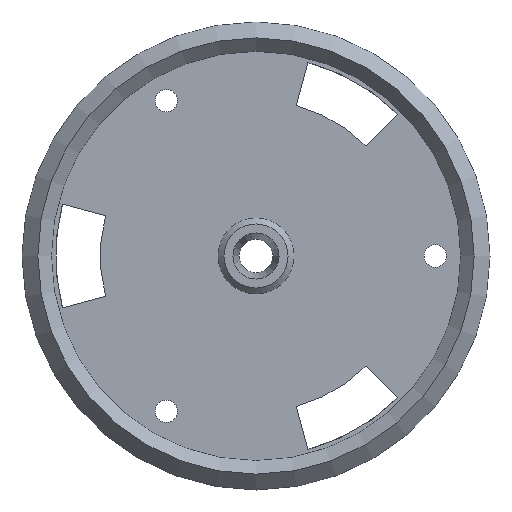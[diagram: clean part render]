
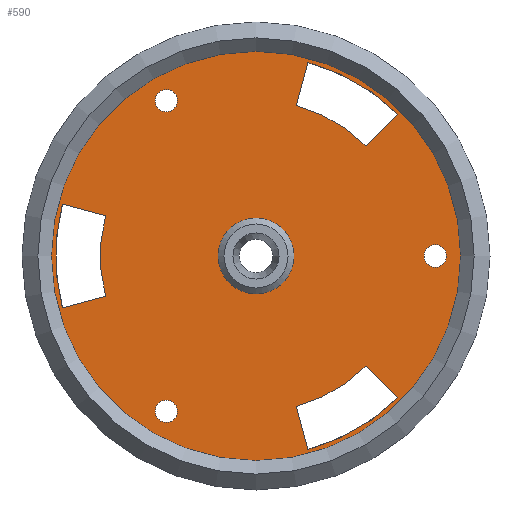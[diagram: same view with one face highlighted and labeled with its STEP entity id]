
A CAD part, front view. The second image highlights one B-rep face of the part: STEP entity #590.
In plain terms, the highlighted planar face has unit normal (0, -1, 0).
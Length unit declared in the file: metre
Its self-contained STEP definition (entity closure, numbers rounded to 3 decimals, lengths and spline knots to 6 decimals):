
#58=LINE('',#942,#88);
#59=LINE('',#946,#89);
#60=LINE('',#950,#90);
#61=LINE('',#954,#91);
#62=LINE('',#958,#92);
#63=LINE('',#962,#93);
#88=VECTOR('',#752,1.);
#89=VECTOR('',#755,1.);
#90=VECTOR('',#758,1.);
#91=VECTOR('',#761,1.);
#92=VECTOR('',#764,1.);
#93=VECTOR('',#767,1.);
#129=ORIENTED_EDGE('',*,*,#293,.F.);
#130=ORIENTED_EDGE('',*,*,#294,.F.);
#131=ORIENTED_EDGE('',*,*,#295,.T.);
#132=ORIENTED_EDGE('',*,*,#296,.T.);
#133=ORIENTED_EDGE('',*,*,#297,.F.);
#134=ORIENTED_EDGE('',*,*,#298,.F.);
#135=ORIENTED_EDGE('',*,*,#299,.T.);
#136=ORIENTED_EDGE('',*,*,#300,.T.);
#137=ORIENTED_EDGE('',*,*,#301,.F.);
#138=ORIENTED_EDGE('',*,*,#302,.F.);
#139=ORIENTED_EDGE('',*,*,#303,.T.);
#140=ORIENTED_EDGE('',*,*,#304,.T.);
#141=ORIENTED_EDGE('',*,*,#305,.F.);
#142=ORIENTED_EDGE('',*,*,#306,.F.);
#143=ORIENTED_EDGE('',*,*,#307,.F.);
#144=ORIENTED_EDGE('',*,*,#308,.F.);
#145=ORIENTED_EDGE('',*,*,#309,.F.);
#293=EDGE_CURVE('',#375,#376,#427,.T.);
#294=EDGE_CURVE('',#377,#375,#58,.T.);
#295=EDGE_CURVE('',#377,#378,#428,.T.);
#296=EDGE_CURVE('',#378,#376,#59,.T.);
#297=EDGE_CURVE('',#379,#380,#429,.T.);
#298=EDGE_CURVE('',#381,#379,#60,.T.);
#299=EDGE_CURVE('',#381,#382,#430,.T.);
#300=EDGE_CURVE('',#382,#380,#61,.T.);
#301=EDGE_CURVE('',#383,#384,#431,.T.);
#302=EDGE_CURVE('',#385,#383,#62,.T.);
#303=EDGE_CURVE('',#385,#386,#432,.T.);
#304=EDGE_CURVE('',#386,#384,#63,.T.);
#305=EDGE_CURVE('',#387,#387,#433,.F.);
#306=EDGE_CURVE('',#388,#388,#434,.F.);
#307=EDGE_CURVE('',#389,#389,#435,.F.);
#308=EDGE_CURVE('',#390,#390,#436,.T.);
#309=EDGE_CURVE('',#391,#391,#437,.T.);
#375=VERTEX_POINT('',#940);
#376=VERTEX_POINT('',#941);
#377=VERTEX_POINT('',#943);
#378=VERTEX_POINT('',#945);
#379=VERTEX_POINT('',#948);
#380=VERTEX_POINT('',#949);
#381=VERTEX_POINT('',#951);
#382=VERTEX_POINT('',#953);
#383=VERTEX_POINT('',#956);
#384=VERTEX_POINT('',#957);
#385=VERTEX_POINT('',#959);
#386=VERTEX_POINT('',#961);
#387=VERTEX_POINT('',#964);
#388=VERTEX_POINT('',#966);
#389=VERTEX_POINT('',#968);
#390=VERTEX_POINT('',#970);
#391=VERTEX_POINT('',#972);
#427=CIRCLE('',#652,0.044108);
#428=CIRCLE('',#653,0.056808);
#429=CIRCLE('',#654,0.044108);
#430=CIRCLE('',#655,0.056808);
#431=CIRCLE('',#656,0.044108);
#432=CIRCLE('',#657,0.056808);
#433=CIRCLE('',#658,0.003175);
#434=CIRCLE('',#659,0.003175);
#435=CIRCLE('',#660,0.003175);
#436=CIRCLE('',#661,0.057988);
#437=CIRCLE('',#662,0.010744);
#458=EDGE_LOOP('',(#129,#130,#131,#132));
#459=EDGE_LOOP('',(#133,#134,#135,#136));
#460=EDGE_LOOP('',(#137,#138,#139,#140));
#461=EDGE_LOOP('',(#141));
#462=EDGE_LOOP('',(#142));
#463=EDGE_LOOP('',(#143));
#464=EDGE_LOOP('',(#144));
#465=EDGE_LOOP('',(#145));
#520=FACE_BOUND('',#458,.T.);
#521=FACE_BOUND('',#459,.T.);
#522=FACE_BOUND('',#460,.T.);
#523=FACE_BOUND('',#461,.T.);
#524=FACE_BOUND('',#462,.T.);
#525=FACE_BOUND('',#463,.T.);
#526=FACE_BOUND('',#464,.T.);
#527=FACE_BOUND('',#465,.T.);
#575=PLANE('',#651);
#590=ADVANCED_FACE('',(#520,#521,#522,#523,#524,#525,#526,#527),#575,.F.);
#651=AXIS2_PLACEMENT_3D('',#938,#748,#749);
#652=AXIS2_PLACEMENT_3D('',#939,#750,#751);
#653=AXIS2_PLACEMENT_3D('',#944,#753,#754);
#654=AXIS2_PLACEMENT_3D('',#947,#756,#757);
#655=AXIS2_PLACEMENT_3D('',#952,#759,#760);
#656=AXIS2_PLACEMENT_3D('',#955,#762,#763);
#657=AXIS2_PLACEMENT_3D('',#960,#765,#766);
#658=AXIS2_PLACEMENT_3D('',#963,#768,#769);
#659=AXIS2_PLACEMENT_3D('',#965,#770,#771);
#660=AXIS2_PLACEMENT_3D('',#967,#772,#773);
#661=AXIS2_PLACEMENT_3D('',#969,#774,#775);
#662=AXIS2_PLACEMENT_3D('',#971,#776,#777);
#748=DIRECTION('',(0.,1.,0.));
#749=DIRECTION('',(0.,0.,1.));
#750=DIRECTION('',(0.,1.,0.));
#751=DIRECTION('',(0.,0.,1.));
#752=DIRECTION('',(-0.259,0.,-0.966));
#753=DIRECTION('',(0.,1.,0.));
#754=DIRECTION('',(0.,0.,1.));
#755=DIRECTION('',(-0.707,0.,-0.707));
#756=DIRECTION('',(0.,1.,0.));
#757=DIRECTION('',(0.,0.,1.));
#758=DIRECTION('',(-0.707,0.,0.707));
#759=DIRECTION('',(0.,1.,0.));
#760=DIRECTION('',(0.,0.,1.));
#761=DIRECTION('',(-0.259,0.,0.966));
#762=DIRECTION('',(0.,1.,0.));
#763=DIRECTION('',(0.,0.,1.));
#764=DIRECTION('',(0.966,0.,0.259));
#765=DIRECTION('',(0.,1.,0.));
#766=DIRECTION('',(0.,0.,1.));
#767=DIRECTION('',(0.966,0.,-0.259));
#768=DIRECTION('',(0.,1.,0.));
#769=DIRECTION('',(0.,0.,1.));
#770=DIRECTION('',(0.,1.,0.));
#771=DIRECTION('',(0.,0.,1.));
#772=DIRECTION('',(0.,1.,0.));
#773=DIRECTION('',(0.,0.,1.));
#774=DIRECTION('',(0.,1.,0.));
#775=DIRECTION('',(0.,0.,1.));
#776=DIRECTION('',(0.,-1.,0.));
#777=DIRECTION('',(-1.,0.,0.));
#938=CARTESIAN_POINT('',(0.,0.0122,-0.024898));
#939=CARTESIAN_POINT('',(0.,0.0122,0.));
#940=CARTESIAN_POINT('',(0.011416,0.0122,0.042605));
#941=CARTESIAN_POINT('',(0.031189,0.0122,0.031189));
#942=CARTESIAN_POINT('',(0.01306,0.0122,0.048739));
#943=CARTESIAN_POINT('',(0.014703,0.0122,0.054873));
#944=CARTESIAN_POINT('',(0.,0.0122,0.));
#945=CARTESIAN_POINT('',(0.04017,0.0122,0.04017));
#946=CARTESIAN_POINT('',(0.03568,0.0122,0.03568));
#947=CARTESIAN_POINT('',(0.,0.0122,0.));
#948=CARTESIAN_POINT('',(0.031189,0.0122,-0.031189));
#949=CARTESIAN_POINT('',(0.011416,0.0122,-0.042605));
#950=CARTESIAN_POINT('',(0.03568,0.0122,-0.03568));
#951=CARTESIAN_POINT('',(0.04017,0.0122,-0.04017));
#952=CARTESIAN_POINT('',(0.,0.0122,0.));
#953=CARTESIAN_POINT('',(0.014703,0.0122,-0.054873));
#954=CARTESIAN_POINT('',(0.01306,0.0122,-0.048739));
#955=CARTESIAN_POINT('',(0.,0.0122,0.));
#956=CARTESIAN_POINT('',(-0.042605,0.0122,-0.011416));
#957=CARTESIAN_POINT('',(-0.042605,0.0122,0.011416));
#958=CARTESIAN_POINT('',(-0.048739,0.0122,-0.01306));
#959=CARTESIAN_POINT('',(-0.054873,0.0122,-0.014703));
#960=CARTESIAN_POINT('',(0.,0.0122,0.));
#961=CARTESIAN_POINT('',(-0.054873,0.0122,0.014703));
#962=CARTESIAN_POINT('',(-0.048739,0.0122,0.01306));
#963=CARTESIAN_POINT('',(-0.0254,0.0122,0.043994));
#964=CARTESIAN_POINT('',(-0.0254,0.0122,0.047169));
#965=CARTESIAN_POINT('',(-0.0254,0.0122,-0.043994));
#966=CARTESIAN_POINT('',(-0.0254,0.0122,-0.040819));
#967=CARTESIAN_POINT('',(0.0508,0.0122,0.));
#968=CARTESIAN_POINT('',(0.0508,0.0122,0.003175));
#969=CARTESIAN_POINT('',(0.,0.0122,0.));
#970=CARTESIAN_POINT('',(0.,0.0122,0.057988));
#971=CARTESIAN_POINT('',(0.,0.0122,0.));
#972=CARTESIAN_POINT('',(-0.010744,0.0122,0.));
